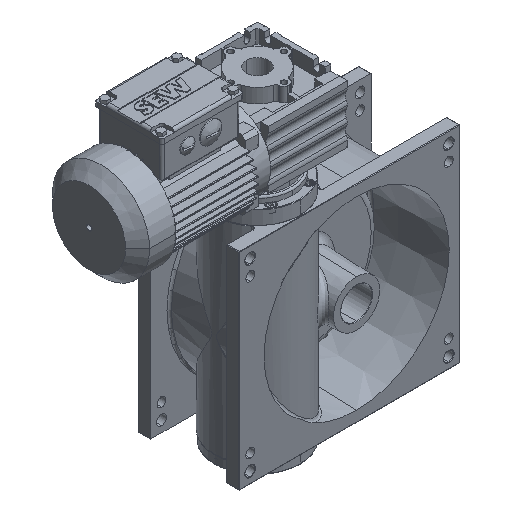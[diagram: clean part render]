
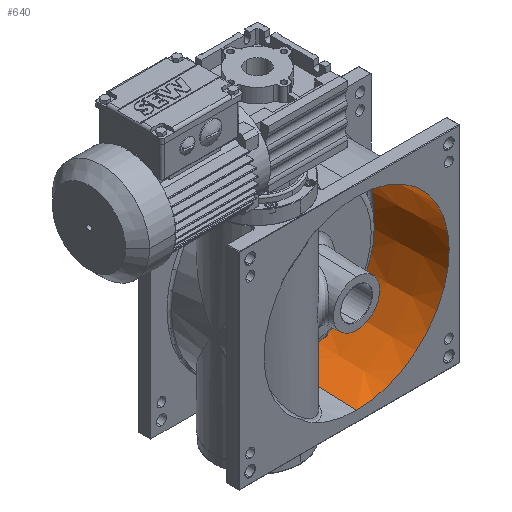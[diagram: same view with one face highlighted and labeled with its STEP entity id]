
A CAD part, isometric view. The second image highlights one B-rep face of the part: STEP entity #640.
In plain terms, the highlighted conical face has half-angle 2 degrees and reference radius 104.105 mm.
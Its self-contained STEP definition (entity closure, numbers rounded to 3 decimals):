
#640 = ADVANCED_FACE ( 'NONE', ( #33603 ), #41307, .F. ) ;
#2169 = VERTEX_POINT ( 'NONE', #44891 ) ;
#3872 = VECTOR ( 'NONE', #60116, 1000. ) ;
#4404 = CARTESIAN_POINT ( 'NONE',  ( 0., 3., 0. ) ) ;
#5471 = DIRECTION ( 'NONE',  ( 0., 0., 1. ) ) ;
#7734 = EDGE_CURVE ( 'NONE', #47675, #14653, #42217, .T. ) ;
#9778 = DIRECTION ( 'NONE',  ( 0., 1., 0. ) ) ;
#13350 = CARTESIAN_POINT ( 'NONE',  ( 0., 84.705, 0. ) ) ;
#14653 = VERTEX_POINT ( 'NONE', #79307 ) ;
#14960 = ORIENTED_EDGE ( 'NONE', *, *, #50508, .F. ) ;
#16860 = DIRECTION ( 'NONE',  ( 0., 0., -1. ) ) ;
#18232 = CIRCLE ( 'NONE', #35376, 104. ) ;
#23039 = LINE ( 'NONE', #48609, #3872 ) ;
#23176 = DIRECTION ( 'NONE',  ( 0., -1., 0. ) ) ;
#33603 = FACE_OUTER_BOUND ( 'NONE', #42343, .T. ) ;
#34396 = DIRECTION ( 'NONE',  ( 0., 0., -1. ) ) ;
#35376 = AXIS2_PLACEMENT_3D ( 'NONE', #4404, #9778, #16860 ) ;
#35836 = ORIENTED_EDGE ( 'NONE', *, *, #68480, .T. ) ;
#36494 = CARTESIAN_POINT ( 'NONE',  ( 0., 3., 104. ) ) ;
#37414 = EDGE_CURVE ( 'NONE', #48451, #2169, #18232, .T. ) ;
#38536 = DIRECTION ( 'NONE',  ( 0., 1., 0. ) ) ;
#40709 = LINE ( 'NONE', #41094, #66275 ) ;
#41094 = CARTESIAN_POINT ( 'NONE',  ( 0., 0., -104.105 ) ) ;
#41307 = CONICAL_SURFACE ( 'NONE', #46573, 104.105, 0.035 ) ;
#42217 = CIRCLE ( 'NONE', #52660, 101.147 ) ;
#42343 = EDGE_LOOP ( 'NONE', ( #14960, #77287, #35836, #49880 ) ) ;
#44891 = CARTESIAN_POINT ( 'NONE',  ( 0., 3., -104. ) ) ;
#46573 = AXIS2_PLACEMENT_3D ( 'NONE', #58612, #23176, #34396 ) ;
#47675 = VERTEX_POINT ( 'NONE', #73517 ) ;
#48451 = VERTEX_POINT ( 'NONE', #36494 ) ;
#48609 = CARTESIAN_POINT ( 'NONE',  ( 0., 0., 104.105 ) ) ;
#49880 = ORIENTED_EDGE ( 'NONE', *, *, #37414, .F. ) ;
#50508 = EDGE_CURVE ( 'NONE', #47675, #48451, #23039, .T. ) ;
#52660 = AXIS2_PLACEMENT_3D ( 'NONE', #13350, #38536, #5471 ) ;
#58612 = CARTESIAN_POINT ( 'NONE',  ( 0., 0., 0. ) ) ;
#60116 = DIRECTION ( 'NONE',  ( 0., -0.999, 0.035 ) ) ;
#66167 = DIRECTION ( 'NONE',  ( 0., -0.999, -0.035 ) ) ;
#66275 = VECTOR ( 'NONE', #66167, 1000. ) ;
#68480 = EDGE_CURVE ( 'NONE', #14653, #2169, #40709, .T. ) ;
#73517 = CARTESIAN_POINT ( 'NONE',  ( 0., 84.705, 101.147 ) ) ;
#77287 = ORIENTED_EDGE ( 'NONE', *, *, #7734, .T. ) ;
#79307 = CARTESIAN_POINT ( 'NONE',  ( 0., 84.705, -101.147 ) ) ;
